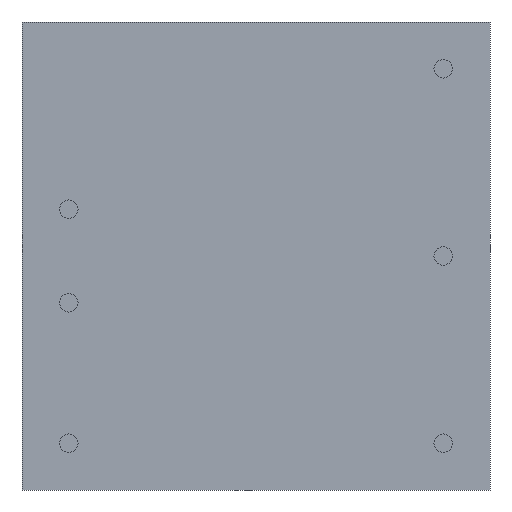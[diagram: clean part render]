
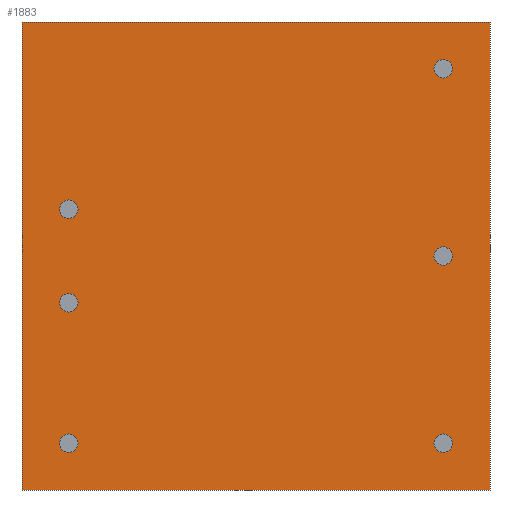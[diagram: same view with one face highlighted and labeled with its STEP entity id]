
A CAD part, front view. The second image highlights one B-rep face of the part: STEP entity #1883.
In plain terms, the highlighted planar face has unit normal (0, -1, 0).
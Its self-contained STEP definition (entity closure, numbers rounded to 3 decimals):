
#106 = CARTESIAN_POINT ( 'NONE',  ( -10.16, -0.6, 2.54 ) ) ;
#132 = ORIENTED_EDGE ( 'NONE', *, *, #2994, .T. ) ;
#185 = ORIENTED_EDGE ( 'NONE', *, *, #478, .T. ) ;
#194 = VERTEX_POINT ( 'NONE', #5503 ) ;
#196 = ORIENTED_EDGE ( 'NONE', *, *, #4892, .T. ) ;
#305 = ORIENTED_EDGE ( 'NONE', *, *, #1632, .T. ) ;
#308 = CARTESIAN_POINT ( 'NONE',  ( -10.16, -0.6, -10.16 ) ) ;
#323 = CIRCLE ( 'NONE', #4681, 0.5 ) ;
#364 = EDGE_LOOP ( 'NONE', ( #185, #1090 ) ) ;
#400 = VERTEX_POINT ( 'NONE', #5349 ) ;
#432 = PLANE ( 'NONE',  #1034 ) ;
#478 = EDGE_CURVE ( 'NONE', #400, #997, #2809, .T. ) ;
#501 = DIRECTION ( 'NONE',  ( 0., 0., 1. ) ) ;
#513 = CIRCLE ( 'NONE', #4050, 0.5 ) ;
#519 = ORIENTED_EDGE ( 'NONE', *, *, #1658, .T. ) ;
#525 = DIRECTION ( 'NONE',  ( 0., 1., 0. ) ) ;
#555 = CARTESIAN_POINT ( 'NONE',  ( -10.16, -0.6, -2.54 ) ) ;
#576 = VERTEX_POINT ( 'NONE', #591 ) ;
#587 = DIRECTION ( 'NONE',  ( 0., 1., 0. ) ) ;
#591 = CARTESIAN_POINT ( 'NONE',  ( 9.66, -0.6, -10.16 ) ) ;
#612 = CIRCLE ( 'NONE', #5576, 0.5 ) ;
#626 = DIRECTION ( 'NONE',  ( 0., 1., 0. ) ) ;
#651 = DIRECTION ( 'NONE',  ( 0., 1., 0. ) ) ;
#682 = CARTESIAN_POINT ( 'NONE',  ( 10.16, -0.6, 0. ) ) ;
#693 = EDGE_CURVE ( 'NONE', #2452, #2773, #4077, .T. ) ;
#698 = CARTESIAN_POINT ( 'NONE',  ( -12.7, -0.6, -12.7 ) ) ;
#778 = CARTESIAN_POINT ( 'NONE',  ( 9.66, -0.6, 0. ) ) ;
#789 = DIRECTION ( 'NONE',  ( 0., 1., 0. ) ) ;
#829 = ORIENTED_EDGE ( 'NONE', *, *, #693, .T. ) ;
#868 = DIRECTION ( 'NONE',  ( 1., 0., 0. ) ) ;
#884 = VERTEX_POINT ( 'NONE', #778 ) ;
#936 = FACE_BOUND ( 'NONE', #2603, .T. ) ;
#939 = DIRECTION ( 'NONE',  ( 0., 0., 1. ) ) ;
#940 = CIRCLE ( 'NONE', #1441, 0.5 ) ;
#966 = DIRECTION ( 'NONE',  ( 0., 1., 0. ) ) ;
#968 = VERTEX_POINT ( 'NONE', #3767 ) ;
#994 = FACE_BOUND ( 'NONE', #5493, .T. ) ;
#997 = VERTEX_POINT ( 'NONE', #3830 ) ;
#1027 = VERTEX_POINT ( 'NONE', #5735 ) ;
#1034 = AXIS2_PLACEMENT_3D ( 'NONE', #2868, #966, #2922 ) ;
#1071 = CIRCLE ( 'NONE', #5737, 0.5 ) ;
#1088 = EDGE_CURVE ( 'NONE', #968, #2166, #5176, .T. ) ;
#1090 = ORIENTED_EDGE ( 'NONE', *, *, #5976, .T. ) ;
#1296 = EDGE_CURVE ( 'NONE', #2773, #3668, #5830, .T. ) ;
#1324 = CIRCLE ( 'NONE', #5969, 0.5 ) ;
#1337 = CARTESIAN_POINT ( 'NONE',  ( -10.66, -0.6, 2.54 ) ) ;
#1360 = CIRCLE ( 'NONE', #4089, 0.5 ) ;
#1388 = CARTESIAN_POINT ( 'NONE',  ( 10.16, -0.6, -10.16 ) ) ;
#1416 = DIRECTION ( 'NONE',  ( 0., 0., 1. ) ) ;
#1419 = CARTESIAN_POINT ( 'NONE',  ( -10.16, -0.6, -10.16 ) ) ;
#1421 = DIRECTION ( 'NONE',  ( 0., 0., 1. ) ) ;
#1424 = AXIS2_PLACEMENT_3D ( 'NONE', #1419, #2314, #3334 ) ;
#1439 = ORIENTED_EDGE ( 'NONE', *, *, #5753, .T. ) ;
#1441 = AXIS2_PLACEMENT_3D ( 'NONE', #2035, #5874, #5395 ) ;
#1563 = CARTESIAN_POINT ( 'NONE',  ( 12.7, -0.6, 12.7 ) ) ;
#1632 = EDGE_CURVE ( 'NONE', #3902, #5560, #940, .T. ) ;
#1658 = EDGE_CURVE ( 'NONE', #3668, #3573, #5959, .T. ) ;
#1847 = LINE ( 'NONE', #4319, #3176 ) ;
#1883 = ADVANCED_FACE ( 'NONE', ( #994, #3793, #2835, #3853, #2952, #936, #4775 ), #432, .F. ) ;
#1963 = CARTESIAN_POINT ( 'NONE',  ( 9.66, -0.6, 10.16 ) ) ;
#2035 = CARTESIAN_POINT ( 'NONE',  ( 10.16, -0.6, 10.16 ) ) ;
#2048 = ORIENTED_EDGE ( 'NONE', *, *, #4723, .T. ) ;
#2124 = AXIS2_PLACEMENT_3D ( 'NONE', #2856, #5619, #3713 ) ;
#2166 = VERTEX_POINT ( 'NONE', #3938 ) ;
#2176 = DIRECTION ( 'NONE',  ( 0., 0., 1. ) ) ;
#2314 = DIRECTION ( 'NONE',  ( 0., 1., 0. ) ) ;
#2452 = VERTEX_POINT ( 'NONE', #4971 ) ;
#2453 = ORIENTED_EDGE ( 'NONE', *, *, #1296, .T. ) ;
#2457 = DIRECTION ( 'NONE',  ( 0., 0., 1. ) ) ;
#2597 = EDGE_LOOP ( 'NONE', ( #6154, #4101 ) ) ;
#2603 = EDGE_LOOP ( 'NONE', ( #132, #1439 ) ) ;
#2626 = EDGE_CURVE ( 'NONE', #2166, #968, #323, .T. ) ;
#2726 = EDGE_CURVE ( 'NONE', #6235, #194, #513, .T. ) ;
#2773 = VERTEX_POINT ( 'NONE', #3507 ) ;
#2809 = CIRCLE ( 'NONE', #3005, 0.5 ) ;
#2835 = FACE_BOUND ( 'NONE', #364, .T. ) ;
#2856 = CARTESIAN_POINT ( 'NONE',  ( 10.16, -0.6, 10.16 ) ) ;
#2868 = CARTESIAN_POINT ( 'NONE',  ( 0., -0.6, 0. ) ) ;
#2922 = DIRECTION ( 'NONE',  ( 1., 0., 0. ) ) ;
#2952 = FACE_BOUND ( 'NONE', #2597, .T. ) ;
#2953 = CARTESIAN_POINT ( 'NONE',  ( -12.7, -0.6, 12.7 ) ) ;
#2965 = DIRECTION ( 'NONE',  ( -1., 0., 0. ) ) ;
#2968 = ORIENTED_EDGE ( 'NONE', *, *, #2626, .T. ) ;
#2994 = EDGE_CURVE ( 'NONE', #884, #3854, #1324, .T. ) ;
#3005 = AXIS2_PLACEMENT_3D ( 'NONE', #5745, #3335, #501 ) ;
#3032 = EDGE_CURVE ( 'NONE', #5560, #3902, #4868, .T. ) ;
#3127 = CARTESIAN_POINT ( 'NONE',  ( 10.16, -0.6, -10.16 ) ) ;
#3176 = VECTOR ( 'NONE', #868, 1000. ) ;
#3195 = AXIS2_PLACEMENT_3D ( 'NONE', #682, #651, #2176 ) ;
#3259 = ORIENTED_EDGE ( 'NONE', *, *, #3032, .T. ) ;
#3271 = DIRECTION ( 'NONE',  ( 0., 0., 1. ) ) ;
#3334 = DIRECTION ( 'NONE',  ( 0., 0., 1. ) ) ;
#3335 = DIRECTION ( 'NONE',  ( 0., 1., 0. ) ) ;
#3347 = EDGE_CURVE ( 'NONE', #194, #6235, #612, .T. ) ;
#3380 = ORIENTED_EDGE ( 'NONE', *, *, #4207, .T. ) ;
#3507 = CARTESIAN_POINT ( 'NONE',  ( 12.7, -0.6, 12.7 ) ) ;
#3552 = DIRECTION ( 'NONE',  ( 0., 0., -1. ) ) ;
#3573 = VERTEX_POINT ( 'NONE', #698 ) ;
#3584 = CARTESIAN_POINT ( 'NONE',  ( -12.7, -0.6, 12.7 ) ) ;
#3595 = CARTESIAN_POINT ( 'NONE',  ( 12.7, -0.6, -12.7 ) ) ;
#3668 = VERTEX_POINT ( 'NONE', #3584 ) ;
#3669 = DIRECTION ( 'NONE',  ( 0., 0., 1. ) ) ;
#3713 = DIRECTION ( 'NONE',  ( 0., 0., 1. ) ) ;
#3767 = CARTESIAN_POINT ( 'NONE',  ( -10.66, -0.6, -10.16 ) ) ;
#3793 = FACE_BOUND ( 'NONE', #6017, .T. ) ;
#3830 = CARTESIAN_POINT ( 'NONE',  ( -9.66, -0.6, -2.54 ) ) ;
#3853 = FACE_BOUND ( 'NONE', #4171, .T. ) ;
#3854 = VERTEX_POINT ( 'NONE', #5694 ) ;
#3868 = DIRECTION ( 'NONE',  ( 0., 1., 0. ) ) ;
#3902 = VERTEX_POINT ( 'NONE', #5621 ) ;
#3938 = CARTESIAN_POINT ( 'NONE',  ( -9.66, -0.6, -10.16 ) ) ;
#4050 = AXIS2_PLACEMENT_3D ( 'NONE', #106, #3868, #1421 ) ;
#4077 = LINE ( 'NONE', #3595, #4933 ) ;
#4089 = AXIS2_PLACEMENT_3D ( 'NONE', #3127, #626, #3669 ) ;
#4101 = ORIENTED_EDGE ( 'NONE', *, *, #3347, .T. ) ;
#4171 = EDGE_LOOP ( 'NONE', ( #5088, #2968 ) ) ;
#4180 = VECTOR ( 'NONE', #2965, 1000. ) ;
#4207 = EDGE_CURVE ( 'NONE', #1027, #576, #4859, .T. ) ;
#4278 = DIRECTION ( 'NONE',  ( 0., 1., 0. ) ) ;
#4301 = CARTESIAN_POINT ( 'NONE',  ( -10.16, -0.6, 2.54 ) ) ;
#4319 = CARTESIAN_POINT ( 'NONE',  ( -12.7, -0.6, -12.7 ) ) ;
#4612 = CIRCLE ( 'NONE', #3195, 0.5 ) ;
#4681 = AXIS2_PLACEMENT_3D ( 'NONE', #308, #789, #3271 ) ;
#4723 = EDGE_CURVE ( 'NONE', #3573, #2452, #1847, .T. ) ;
#4775 = FACE_OUTER_BOUND ( 'NONE', #5397, .T. ) ;
#4859 = CIRCLE ( 'NONE', #4952, 0.5 ) ;
#4868 = CIRCLE ( 'NONE', #2124, 0.5 ) ;
#4872 = CARTESIAN_POINT ( 'NONE',  ( 10.16, -0.6, 0. ) ) ;
#4892 = EDGE_CURVE ( 'NONE', #576, #1027, #1360, .T. ) ;
#4933 = VECTOR ( 'NONE', #6006, 1000. ) ;
#4952 = AXIS2_PLACEMENT_3D ( 'NONE', #1388, #4278, #5291 ) ;
#4971 = CARTESIAN_POINT ( 'NONE',  ( 12.7, -0.6, -12.7 ) ) ;
#5088 = ORIENTED_EDGE ( 'NONE', *, *, #1088, .T. ) ;
#5176 = CIRCLE ( 'NONE', #1424, 0.5 ) ;
#5285 = DIRECTION ( 'NONE',  ( 0., 1., 0. ) ) ;
#5291 = DIRECTION ( 'NONE',  ( 0., 0., 1. ) ) ;
#5299 = VECTOR ( 'NONE', #3552, 1000. ) ;
#5349 = CARTESIAN_POINT ( 'NONE',  ( -10.66, -0.6, -2.54 ) ) ;
#5395 = DIRECTION ( 'NONE',  ( 0., 0., 1. ) ) ;
#5397 = EDGE_LOOP ( 'NONE', ( #2453, #519, #2048, #829 ) ) ;
#5493 = EDGE_LOOP ( 'NONE', ( #3259, #305 ) ) ;
#5503 = CARTESIAN_POINT ( 'NONE',  ( -9.66, -0.6, 2.54 ) ) ;
#5560 = VERTEX_POINT ( 'NONE', #1963 ) ;
#5576 = AXIS2_PLACEMENT_3D ( 'NONE', #4301, #5285, #939 ) ;
#5619 = DIRECTION ( 'NONE',  ( 0., 1., 0. ) ) ;
#5621 = CARTESIAN_POINT ( 'NONE',  ( 10.66, -0.6, 10.16 ) ) ;
#5694 = CARTESIAN_POINT ( 'NONE',  ( 10.66, -0.6, 0. ) ) ;
#5735 = CARTESIAN_POINT ( 'NONE',  ( 10.66, -0.6, -10.16 ) ) ;
#5737 = AXIS2_PLACEMENT_3D ( 'NONE', #555, #587, #1416 ) ;
#5745 = CARTESIAN_POINT ( 'NONE',  ( -10.16, -0.6, -2.54 ) ) ;
#5753 = EDGE_CURVE ( 'NONE', #3854, #884, #4612, .T. ) ;
#5830 = LINE ( 'NONE', #1563, #4180 ) ;
#5874 = DIRECTION ( 'NONE',  ( 0., 1., 0. ) ) ;
#5959 = LINE ( 'NONE', #2953, #5299 ) ;
#5969 = AXIS2_PLACEMENT_3D ( 'NONE', #4872, #525, #2457 ) ;
#5976 = EDGE_CURVE ( 'NONE', #997, #400, #1071, .T. ) ;
#6006 = DIRECTION ( 'NONE',  ( 0., 0., 1. ) ) ;
#6017 = EDGE_LOOP ( 'NONE', ( #196, #3380 ) ) ;
#6154 = ORIENTED_EDGE ( 'NONE', *, *, #2726, .T. ) ;
#6235 = VERTEX_POINT ( 'NONE', #1337 ) ;
